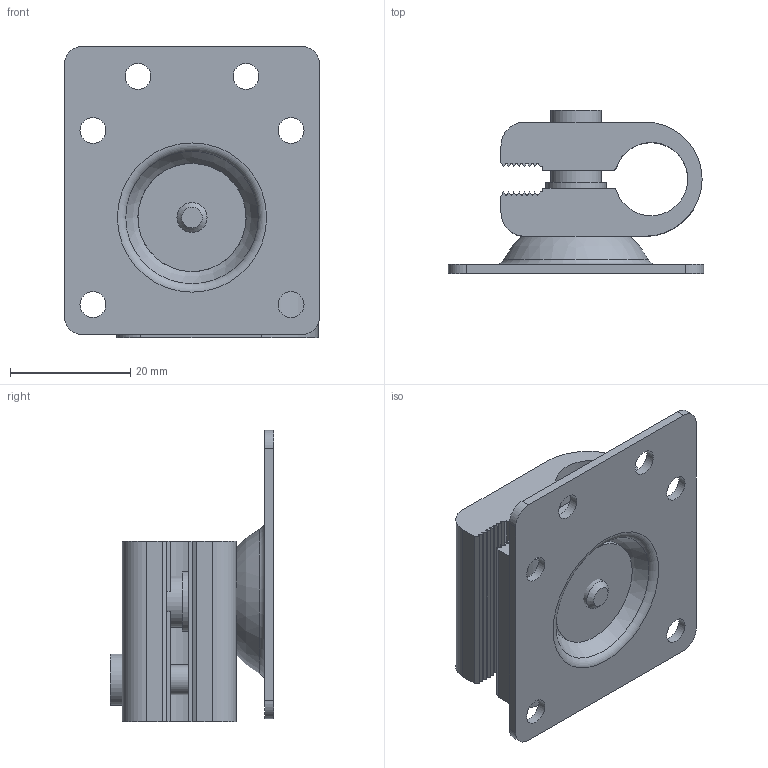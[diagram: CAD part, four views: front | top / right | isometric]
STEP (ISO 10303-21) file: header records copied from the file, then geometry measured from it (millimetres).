
FILE_DESCRIPTION(/* description */ (''),/* implementation_level */ '2;1');
FILE_NAME(/* name */ '3DCAD_BTU320M_D12.stp',/* time_stamp */ '2016-01-18T09:43:53+01:00',/* author */ ('CC2'),/* organization */ ('Leuze electronic'),/* preprocessor_version */ 'ST-DEVELOPER v15',/* originating_system */ 'SIEMENS PLM Software NX 8.5',/* authorisation */ '');
FILE_SCHEMA (('AUTOMOTIVE_DESIGN { 1 0 10303 214 3 1 1 1 }'));
Length unit declared in the file: millimetre
Products named in the file (6): 003697_D; 007999_02; 002082_C; 50001809_1_1_00.0; 003628_00.0; 008297_00.0
Assembly tree (7 placements, depth 2):
  008297_00.0
    003628_00.0  x2
    50001809_1_1_00.0  x2
    002082_C
    007999_02
    003697_D
Bounding box: 42.5 x 27.2 x 48.5 mm (x, y, z)
Volume: 15047.8 mm3; surface area: 12860.4 mm2
Topology: 7 solids, 7 shells, 421 faces, 1218 edges, 812 vertices
Faces by surface type: plane 290, cylinder 46, cone 41, sphere 40, torus 4
Full cylindrical faces by diameter (mm): 4.2 x2, 4.3 x6, 5 x2, 5.2 x1, 5.3 x2, 5.5 x1, 8.5 x2, 10 x2, 11.5 x2, 12.6 x1, 18 x1
Entity records: 13612 total; most frequent: CARTESIAN_POINT 2580, DIRECTION 2369, ORIENTED_EDGE 2274, EDGE_CURVE 1137, AXIS2_PLACEMENT_3D 900, VERTEX_POINT 773, LINE 569, VECTOR 569
